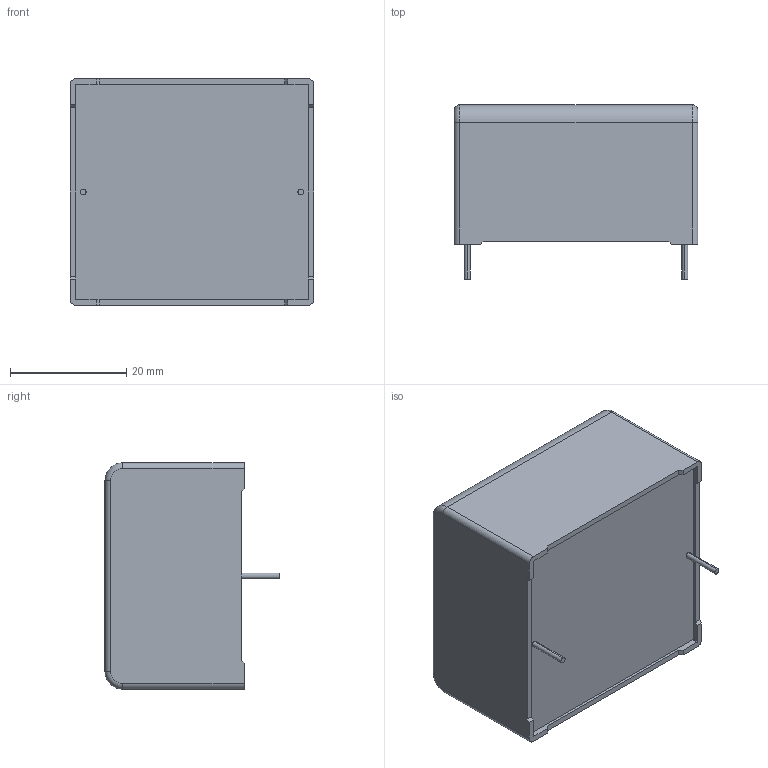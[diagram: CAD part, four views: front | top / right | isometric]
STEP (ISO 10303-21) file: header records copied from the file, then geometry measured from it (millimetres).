
FILE_DESCRIPTION (( 'STEP AP203' ), '1' );
FILE_NAME ('DC_Link_39x24x42_2pins.step', '2017-04-03T16:00:17', ( 'work' ), ( 'Hewlett-Packard Company' ), 'SwSTEP 2.0', 'SolidWorks 2017', '' );
FILE_SCHEMA (( 'CONFIG_CONTROL_DESIGN' ));
Length unit declared in the file: millimetre
Products named in the file (1): DC_Link_39x24x42_2pins
Bounding box: 42 x 30 x 39 mm (x, y, z)
Volume: 37582.8 mm3; surface area: 7049.9 mm2
Topology: 1 solids, 1 shells, 116 faces, 307 edges, 202 vertices
Faces by surface type: plane 80, cylinder 16, bspline 16, torus 4
Entity records: 4332 total; most frequent: CARTESIAN_POINT 1450, ORIENTED_EDGE 614, DIRECTION 513, EDGE_CURVE 307, LINE 239, VECTOR 239, VERTEX_POINT 202, AXIS2_PLACEMENT_3D 137
